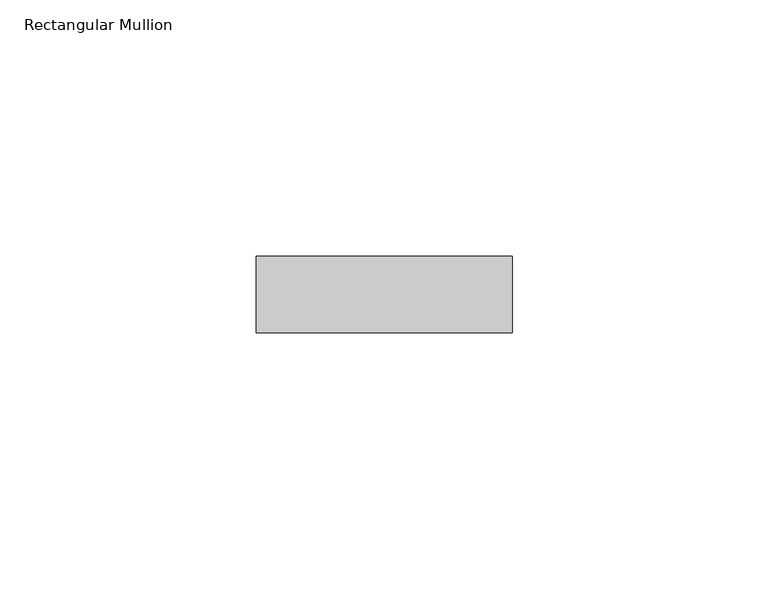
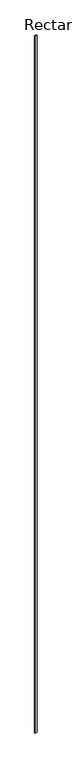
"""IFC4 building model written with IfcOpenShell, lengths in millimetres: member geometry, Rectangular Mullion : Ripa."""

from ifc_helpers import new_model, si_unit, frame, origin, place, context, project, spatial, polyline, outline, extrude, source, transform, mapped, element, save


def rectangular_mullion_e60b9168(model_context):
    return source(origin(), model_context, "Body", "SweptSolid", [
        extrude(outline(polyline([(0.0, -75.0), (-50.0, -75.0), (-50.0, -60.0), (0.0, -60.0), (0.0, -75.0)])), frame((0.0, 0.0, -19150.0), z_axis=(0.0, 0.0, 1.0), x_axis=(1.0, 0.0, 0.0)), (0.0, 0.0, 1.0), 19150.0),
    ])


if __name__ == "__main__":
    model = new_model("IFC4")
    model_context = context("Model", 3, world=origin())
    ifc_project = project(units=[si_unit("LENGTHUNIT", "METRE", prefix="MILLI")], contexts=[model_context])
    site = spatial("IfcSite", under=ifc_project)
    building = spatial("IfcBuilding", under=site)
    placement = place(None, origin())
    rectangular_mullion_shape = rectangular_mullion_e60b9168(model_context)
    element("IfcMember", 1, ObjectType="Rectangular Mullion : Ripa", at=placement, inside=building, context=model_context, shape_type="MappedRepresentation", body=[
        mapped(rectangular_mullion_shape, transform((0.0, 0.0, 0.0), x_axis=(1.0, 0.0, 0.0), y_axis=(0.0, 1.0, 0.0), z_axis=(0.0, 0.0, 1.0))),
    ])
    save(model, "model.ifc")
